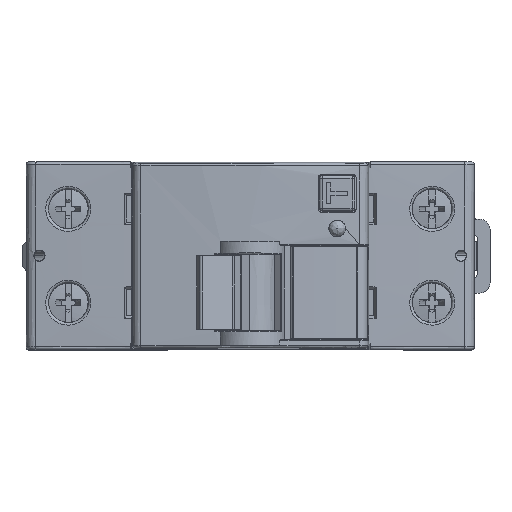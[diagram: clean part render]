
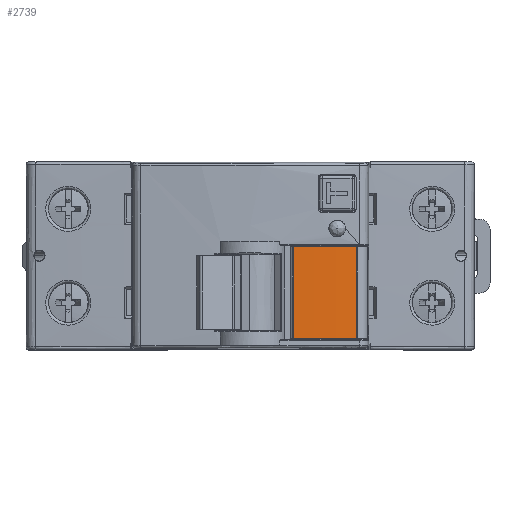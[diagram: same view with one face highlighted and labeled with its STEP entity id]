
A CAD part, top view. The second image highlights one B-rep face of the part: STEP entity #2739.
In plain terms, the highlighted cylindrical face has radius 181.7 mm (diameter 363.4 mm), a partial arc.
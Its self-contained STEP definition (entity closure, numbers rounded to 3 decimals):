
#1546=FACE_OUTER_BOUND('',#4881,.T.);
#1846=CYLINDRICAL_SURFACE('',#20029,181.7);
#2739=ADVANCED_FACE('',(#1546),#1846,.T.);
#3527=CIRCLE('',#20027,181.7);
#3528=CIRCLE('',#20028,181.7);
#4881=EDGE_LOOP('',(#11219,#11220,#11221,#11222));
#5636=LINE('',#49362,#6361);
#5637=LINE('',#49366,#6362);
#6361=VECTOR('',#21931,1.);
#6362=VECTOR('',#21934,1.);
#11219=ORIENTED_EDGE('',*,*,#17000,.T.);
#11220=ORIENTED_EDGE('',*,*,#17001,.F.);
#11221=ORIENTED_EDGE('',*,*,#17002,.F.);
#11222=ORIENTED_EDGE('',*,*,#17003,.T.);
#14202=VERTEX_POINT('',#49360);
#14203=VERTEX_POINT('',#49361);
#14204=VERTEX_POINT('',#49363);
#14205=VERTEX_POINT('',#49365);
#17000=EDGE_CURVE('',#14202,#14203,#3527,.T.);
#17001=EDGE_CURVE('',#14204,#14203,#5636,.T.);
#17002=EDGE_CURVE('',#14205,#14204,#3528,.T.);
#17003=EDGE_CURVE('',#14205,#14202,#5637,.T.);
#20027=AXIS2_PLACEMENT_3D('',#49359,#21929,#21930);
#20028=AXIS2_PLACEMENT_3D('',#49364,#21932,#21933);
#20029=AXIS2_PLACEMENT_3D('',#49367,#21935,#21936);
#21929=DIRECTION('',(0.,-1.,0.));
#21930=DIRECTION('',(1.,0.,0.));
#21931=DIRECTION('',(0.,1.,0.));
#21932=DIRECTION('',(0.,-1.,0.));
#21933=DIRECTION('',(1.,0.,0.));
#21934=DIRECTION('',(0.,1.,0.));
#21935=DIRECTION('',(0.,1.,0.));
#21936=DIRECTION('',(0.,0.,1.));
#49359=CARTESIAN_POINT('',(-0.32,1.647,-116.662));
#49360=CARTESIAN_POINT('',(20.18,1.647,63.878));
#49361=CARTESIAN_POINT('',(8.18,1.647,64.839));
#49362=CARTESIAN_POINT('',(8.18,-15.653,64.839));
#49363=CARTESIAN_POINT('',(8.18,-15.653,64.839));
#49364=CARTESIAN_POINT('',(-0.32,-15.653,-116.662));
#49365=CARTESIAN_POINT('',(20.18,-15.653,63.878));
#49366=CARTESIAN_POINT('',(20.18,-15.653,63.878));
#49367=CARTESIAN_POINT('',(-0.32,-15.653,-116.662));
